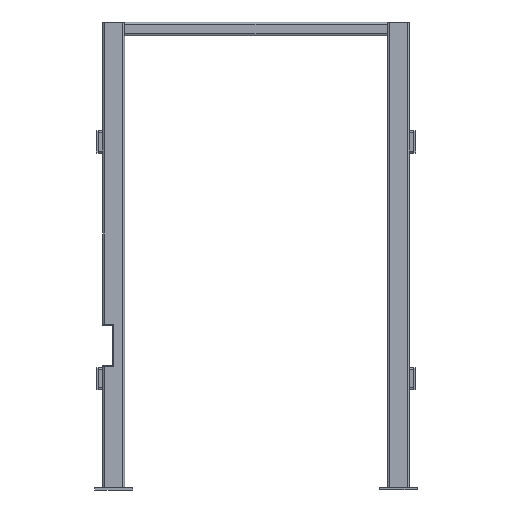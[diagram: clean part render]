
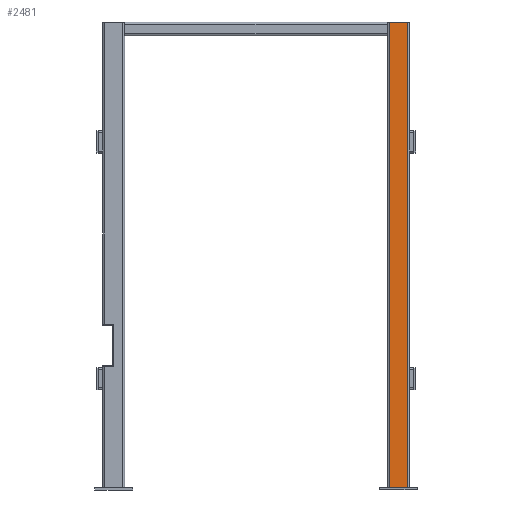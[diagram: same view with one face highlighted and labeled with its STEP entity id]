
A CAD part, left-side view. The second image highlights one B-rep face of the part: STEP entity #2481.
In plain terms, the highlighted planar face has unit normal (-1, 0, 0).
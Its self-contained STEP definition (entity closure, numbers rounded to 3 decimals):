
#311=FACE_OUTER_BOUND('',#449,.T.);
#449=EDGE_LOOP('',(#1723,#1724,#1725,#1726));
#616=LINE('',#3884,#860);
#624=LINE('',#3909,#868);
#625=LINE('',#3911,#869);
#626=LINE('',#3912,#870);
#860=VECTOR('',#3087,10.);
#868=VECTOR('',#3115,10.);
#869=VECTOR('',#3116,10.);
#870=VECTOR('',#3117,10.);
#1105=VERTEX_POINT('',#3881);
#1106=VERTEX_POINT('',#3883);
#1113=VERTEX_POINT('',#3908);
#1114=VERTEX_POINT('',#3910);
#1343=EDGE_CURVE('',#1106,#1105,#616,.T.);
#1356=EDGE_CURVE('',#1105,#1113,#624,.T.);
#1357=EDGE_CURVE('',#1114,#1113,#625,.T.);
#1358=EDGE_CURVE('',#1106,#1114,#626,.T.);
#1723=ORIENTED_EDGE('',*,*,#1356,.T.);
#1724=ORIENTED_EDGE('',*,*,#1357,.F.);
#1725=ORIENTED_EDGE('',*,*,#1358,.F.);
#1726=ORIENTED_EDGE('',*,*,#1343,.T.);
#2393=PLANE('',#2787);
#2481=ADVANCED_FACE('',(#311),#2393,.T.);
#2787=AXIS2_PLACEMENT_3D('',#3907,#3113,#3114);
#3087=DIRECTION('',(0.,0.,1.));
#3113=DIRECTION('center_axis',(-1.,0.,0.));
#3114=DIRECTION('ref_axis',(0.,0.,1.));
#3115=DIRECTION('',(0.,1.,0.));
#3116=DIRECTION('',(0.,0.,1.));
#3117=DIRECTION('',(0.,1.,0.));
#3881=CARTESIAN_POINT('',(-60.,-82.,4185.));
#3883=CARTESIAN_POINT('',(-60.,-82.,0.));
#3884=CARTESIAN_POINT('',(-60.,-82.,0.));
#3907=CARTESIAN_POINT('Origin',(-60.,-82.,0.));
#3908=CARTESIAN_POINT('',(-60.,82.,4185.));
#3909=CARTESIAN_POINT('',(-60.,-41.,4185.));
#3910=CARTESIAN_POINT('',(-60.,82.,0.));
#3911=CARTESIAN_POINT('',(-60.,82.,0.));
#3912=CARTESIAN_POINT('',(-60.,-41.,0.));
